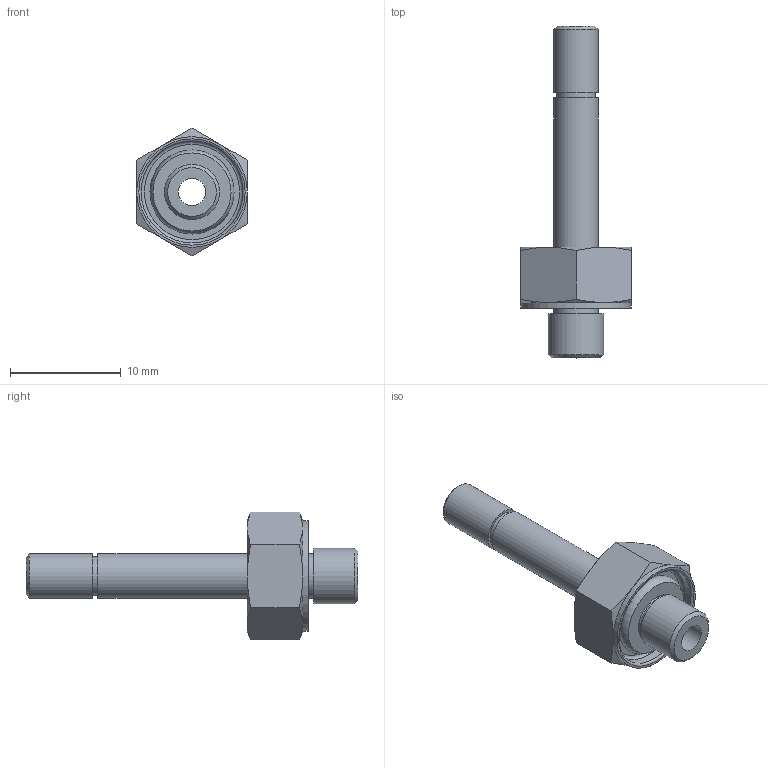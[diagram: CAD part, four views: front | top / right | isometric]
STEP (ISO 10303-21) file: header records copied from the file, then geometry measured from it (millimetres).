
FILE_DESCRIPTION(/* description */ (''),/* implementation_level */ '2;1');
FILE_NAME(/* name */ 'LXH16 0006 M5.stp',/* time_stamp */ '2026-04-29T15:18:43+02:00',/* author */ ('freju'),/* organization */ (''),/* preprocessor_version */ 'ST-DEVELOPER v20.1',/* originating_system */ 'Autodesk Inventor 2026',/* authorisation */ '');
FILE_SCHEMA (('AUTOMOTIVE_DESIGN { 1 0 10303 214 3 1 1 }'));
Length unit declared in the file: millimetre
Products named in the file (4): LXH15 0006 M5; LXH16 0006 M5; O-Ring; ISO 3601-1 - A 0040 G
Assembly tree (3 placements, depth 3):
  LXH15 0006 M5
    LXH16 0006 M5
    O-Ring
      ISO 3601-1 - A 0040 G
Bounding box: 10 x 30 x 11.55 mm (x, y, z)
Volume: 626.6 mm3; surface area: 1063.6 mm2
Topology: 2 solids, 2 shells, 46 faces, 92 edges, 57 vertices
Faces by surface type: plane 17, cone 14, cylinder 9, torus 6
Full cylindrical faces by diameter (mm): 2.5 x1, 3.5 x1, 4 x4, 5 x1, 9.2 x1, 10 x1
Entity records: 1329 total; most frequent: CARTESIAN_POINT 250, DIRECTION 225, ORIENTED_EDGE 184, AXIS2_PLACEMENT_3D 104, EDGE_CURVE 92, EDGE_LOOP 57, VERTEX_POINT 57, CIRCLE 51
